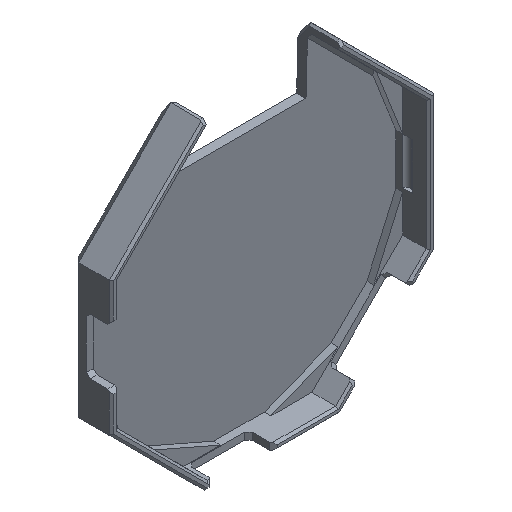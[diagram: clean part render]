
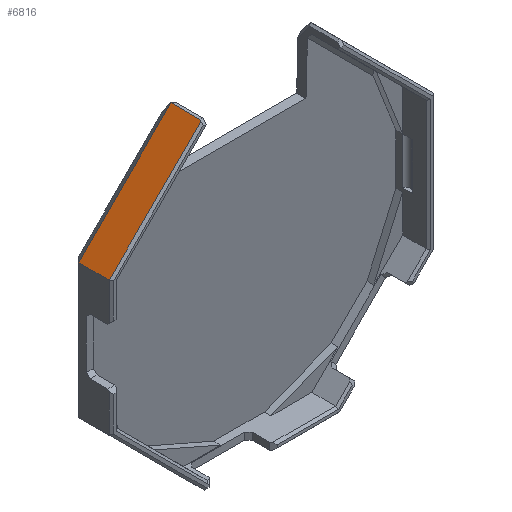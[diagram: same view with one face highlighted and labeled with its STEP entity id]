
A CAD part, isometric view. The second image highlights one B-rep face of the part: STEP entity #6816.
In plain terms, the highlighted planar face has unit normal (-0.707, 0, 0.707).
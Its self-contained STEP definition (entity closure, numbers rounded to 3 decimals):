
#4212 = PLANE('',#4213);
#4213 = AXIS2_PLACEMENT_3D('',#4214,#4215,#4216);
#4214 = CARTESIAN_POINT('',(-34.785,15.,-13.787));
#4215 = DIRECTION('',(1.,0.,0.));
#4216 = DIRECTION('',(0.,0.,-1.));
#4612 = VERTEX_POINT('',#4613);
#4613 = CARTESIAN_POINT('',(-34.785,8.45,14.408));
#4627 = PLANE('',#4628);
#4628 = AXIS2_PLACEMENT_3D('',#4629,#4630,#4631);
#4629 = CARTESIAN_POINT('',(-34.345,8.45,14.848));
#4630 = DIRECTION('',(0.5,0.707,-0.5));
#4631 = DIRECTION('',(0.,0.577,0.816));
#5222 = PLANE('',#5223);
#5223 = AXIS2_PLACEMENT_3D('',#5224,#5225,#5226);
#5224 = CARTESIAN_POINT('',(-14.112,1.644,
    24.427));
#5225 = DIRECTION('',(-0.259,0.778,-0.573));
#5226 = DIRECTION('',(0.,0.593,0.805)
  );
#5260 = VERTEX_POINT('',#5261);
#5261 = CARTESIAN_POINT('',(-15.089,8.45,34.105));
#5282 = EDGE_CURVE('',#5260,#4612,#5283,.T.);
#5283 = SURFACE_CURVE('',#5284,(#5288,#5295),.PCURVE_S1.);
#5284 = LINE('',#5285,#5286);
#5285 = CARTESIAN_POINT('',(-34.345,8.45,14.848));
#5286 = VECTOR('',#5287,1.);
#5287 = DIRECTION('',(-0.707,0.,-0.707));
#5288 = PCURVE('',#4627,#5289);
#5289 = DEFINITIONAL_REPRESENTATION('',(#5290),#5294);
#5290 = LINE('',#5291,#5292);
#5291 = CARTESIAN_POINT('',(0.,0.));
#5292 = VECTOR('',#5293,1.);
#5293 = DIRECTION('',(-0.577,-0.816));
#5294 = ( GEOMETRIC_REPRESENTATION_CONTEXT(2) 
PARAMETRIC_REPRESENTATION_CONTEXT() REPRESENTATION_CONTEXT('2D SPACE',''
  ) );
#5295 = PCURVE('',#5296,#5301);
#5296 = PLANE('',#5297);
#5297 = AXIS2_PLACEMENT_3D('',#5298,#5299,#5300);
#5298 = CARTESIAN_POINT('',(-34.345,15.,14.848));
#5299 = DIRECTION('',(0.707,0.,-0.707));
#5300 = DIRECTION('',(-0.707,0.,-0.707));
#5301 = DEFINITIONAL_REPRESENTATION('',(#5302),#5306);
#5302 = LINE('',#5303,#5304);
#5303 = CARTESIAN_POINT('',(0.,-6.55));
#5304 = VECTOR('',#5305,1.);
#5305 = DIRECTION('',(1.,0.));
#5306 = ( GEOMETRIC_REPRESENTATION_CONTEXT(2) 
PARAMETRIC_REPRESENTATION_CONTEXT() REPRESENTATION_CONTEXT('2D SPACE',''
  ) );
#6760 = EDGE_CURVE('',#4612,#6761,#6763,.T.);
#6761 = VERTEX_POINT('',#6762);
#6762 = CARTESIAN_POINT('',(-34.785,15.,14.408));
#6763 = SURFACE_CURVE('',#6764,(#6768,#6775),.PCURVE_S1.);
#6764 = LINE('',#6765,#6766);
#6765 = CARTESIAN_POINT('',(-34.785,15.,14.408));
#6766 = VECTOR('',#6767,1.);
#6767 = DIRECTION('',(0.,1.,0.));
#6768 = PCURVE('',#4212,#6769);
#6769 = DEFINITIONAL_REPRESENTATION('',(#6770),#6774);
#6770 = LINE('',#6771,#6772);
#6771 = CARTESIAN_POINT('',(-28.195,0.));
#6772 = VECTOR('',#6773,1.);
#6773 = DIRECTION('',(0.,1.));
#6774 = ( GEOMETRIC_REPRESENTATION_CONTEXT(2) 
PARAMETRIC_REPRESENTATION_CONTEXT() REPRESENTATION_CONTEXT('2D SPACE',''
  ) );
#6775 = PCURVE('',#5296,#6776);
#6776 = DEFINITIONAL_REPRESENTATION('',(#6777),#6781);
#6777 = LINE('',#6778,#6779);
#6778 = CARTESIAN_POINT('',(0.621,0.));
#6779 = VECTOR('',#6780,1.);
#6780 = DIRECTION('',(0.,1.));
#6781 = ( GEOMETRIC_REPRESENTATION_CONTEXT(2) 
PARAMETRIC_REPRESENTATION_CONTEXT() REPRESENTATION_CONTEXT('2D SPACE',''
  ) );
#6816 = ADVANCED_FACE('',(#6817),#5296,.F.);
#6817 = FACE_BOUND('',#6818,.T.);
#6818 = EDGE_LOOP('',(#6819,#6842,#6870,#6896,#6897));
#6819 = ORIENTED_EDGE('',*,*,#6820,.T.);
#6820 = EDGE_CURVE('',#5260,#6821,#6823,.T.);
#6821 = VERTEX_POINT('',#6822);
#6822 = CARTESIAN_POINT('',(-14.974,8.572,
    34.219));
#6823 = SURFACE_CURVE('',#6824,(#6828,#6835),.PCURVE_S1.);
#6824 = LINE('',#6825,#6826);
#6825 = CARTESIAN_POINT('',(-15.089,8.45,34.105));
#6826 = VECTOR('',#6827,1.);
#6827 = DIRECTION('',(0.564,0.603,0.564));
#6828 = PCURVE('',#5296,#6829);
#6829 = DEFINITIONAL_REPRESENTATION('',(#6830),#6834);
#6830 = LINE('',#6831,#6832);
#6831 = CARTESIAN_POINT('',(-27.233,-6.55));
#6832 = VECTOR('',#6833,1.);
#6833 = DIRECTION('',(-0.798,0.603));
#6834 = ( GEOMETRIC_REPRESENTATION_CONTEXT(2) 
PARAMETRIC_REPRESENTATION_CONTEXT() REPRESENTATION_CONTEXT('2D SPACE',''
  ) );
#6835 = PCURVE('',#5222,#6836);
#6836 = DEFINITIONAL_REPRESENTATION('',(#6837),#6841);
#6837 = LINE('',#6838,#6839);
#6838 = CARTESIAN_POINT('',(11.828,-1.011));
#6839 = VECTOR('',#6840,1.);
#6840 = DIRECTION('',(0.812,0.584));
#6841 = ( GEOMETRIC_REPRESENTATION_CONTEXT(2) 
PARAMETRIC_REPRESENTATION_CONTEXT() REPRESENTATION_CONTEXT('2D SPACE',''
  ) );
#6842 = ORIENTED_EDGE('',*,*,#6843,.T.);
#6843 = EDGE_CURVE('',#6821,#6844,#6846,.T.);
#6844 = VERTEX_POINT('',#6845);
#6845 = CARTESIAN_POINT('',(-14.974,15.,34.219));
#6846 = SURFACE_CURVE('',#6847,(#6851,#6858),.PCURVE_S1.);
#6847 = LINE('',#6848,#6849);
#6848 = CARTESIAN_POINT('',(-14.974,7.,34.219));
#6849 = VECTOR('',#6850,1.);
#6850 = DIRECTION('',(0.,1.,0.));
#6851 = PCURVE('',#5296,#6852);
#6852 = DEFINITIONAL_REPRESENTATION('',(#6853),#6857);
#6853 = LINE('',#6854,#6855);
#6854 = CARTESIAN_POINT('',(-27.395,-8.));
#6855 = VECTOR('',#6856,1.);
#6856 = DIRECTION('',(0.,1.));
#6857 = ( GEOMETRIC_REPRESENTATION_CONTEXT(2) 
PARAMETRIC_REPRESENTATION_CONTEXT() REPRESENTATION_CONTEXT('2D SPACE',''
  ) );
#6858 = PCURVE('',#6859,#6864);
#6859 = PLANE('',#6860);
#6860 = AXIS2_PLACEMENT_3D('',#6861,#6862,#6863);
#6861 = CARTESIAN_POINT('',(-14.392,7.,34.219));
#6862 = DIRECTION('',(0.,0.,-1.));
#6863 = DIRECTION('',(-1.,0.,0.));
#6864 = DEFINITIONAL_REPRESENTATION('',(#6865),#6869);
#6865 = LINE('',#6866,#6867);
#6866 = CARTESIAN_POINT('',(0.582,0.));
#6867 = VECTOR('',#6868,1.);
#6868 = DIRECTION('',(0.,1.));
#6869 = ( GEOMETRIC_REPRESENTATION_CONTEXT(2) 
PARAMETRIC_REPRESENTATION_CONTEXT() REPRESENTATION_CONTEXT('2D SPACE',''
  ) );
#6870 = ORIENTED_EDGE('',*,*,#6871,.F.);
#6871 = EDGE_CURVE('',#6761,#6844,#6872,.T.);
#6872 = SURFACE_CURVE('',#6873,(#6877,#6884),.PCURVE_S1.);
#6873 = LINE('',#6874,#6875);
#6874 = CARTESIAN_POINT('',(-34.785,15.,14.408));
#6875 = VECTOR('',#6876,1.);
#6876 = DIRECTION('',(0.707,0.,0.707)
  );
#6877 = PCURVE('',#5296,#6878);
#6878 = DEFINITIONAL_REPRESENTATION('',(#6879),#6883);
#6879 = LINE('',#6880,#6881);
#6880 = CARTESIAN_POINT('',(0.621,0.));
#6881 = VECTOR('',#6882,1.);
#6882 = DIRECTION('',(-1.,0.));
#6883 = ( GEOMETRIC_REPRESENTATION_CONTEXT(2) 
PARAMETRIC_REPRESENTATION_CONTEXT() REPRESENTATION_CONTEXT('2D SPACE',''
  ) );
#6884 = PCURVE('',#6885,#6890);
#6885 = PLANE('',#6886);
#6886 = AXIS2_PLACEMENT_3D('',#6887,#6888,#6889);
#6887 = CARTESIAN_POINT('',(-34.785,15.,14.408));
#6888 = DIRECTION('',(-0.5,0.707,0.5));
#6889 = DIRECTION('',(0.,-0.577,0.816)
  );
#6890 = DEFINITIONAL_REPRESENTATION('',(#6891),#6895);
#6891 = LINE('',#6892,#6893);
#6892 = CARTESIAN_POINT('',(0.,0.));
#6893 = VECTOR('',#6894,1.);
#6894 = DIRECTION('',(0.577,0.816));
#6895 = ( GEOMETRIC_REPRESENTATION_CONTEXT(2) 
PARAMETRIC_REPRESENTATION_CONTEXT() REPRESENTATION_CONTEXT('2D SPACE',''
  ) );
#6896 = ORIENTED_EDGE('',*,*,#6760,.F.);
#6897 = ORIENTED_EDGE('',*,*,#5282,.F.);
